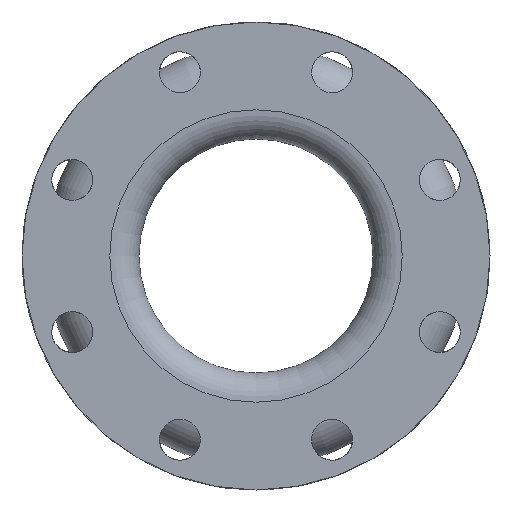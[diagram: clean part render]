
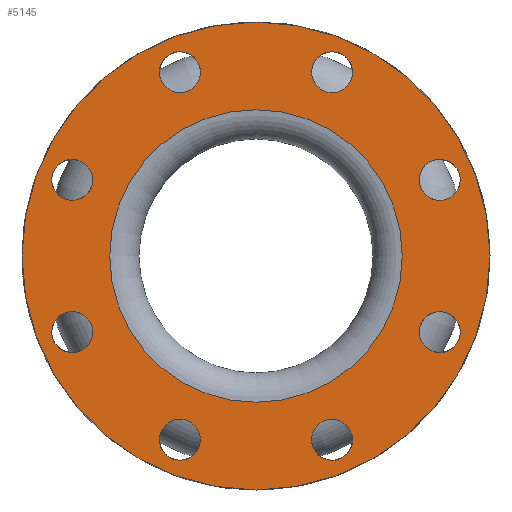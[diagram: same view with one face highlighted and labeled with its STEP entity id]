
A CAD part, left-side view. The second image highlights one B-rep face of the part: STEP entity #5145.
In plain terms, the highlighted planar face has unit normal (-1, 0, 0).
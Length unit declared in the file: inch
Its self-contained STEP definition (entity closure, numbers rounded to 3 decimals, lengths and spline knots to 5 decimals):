
#95=FACE_BOUND('',#1450,.T.);
#96=FACE_BOUND('',#1451,.T.);
#97=FACE_BOUND('',#1452,.T.);
#98=FACE_BOUND('',#1453,.T.);
#99=FACE_BOUND('',#1454,.T.);
#100=FACE_BOUND('',#1455,.T.);
#101=FACE_BOUND('',#1456,.T.);
#102=FACE_BOUND('',#1457,.T.);
#103=FACE_BOUND('',#1458,.T.);
#1074=FACE_OUTER_BOUND('',#1449,.T.);
#1449=EDGE_LOOP('',(#4420));
#1450=EDGE_LOOP('',(#4421));
#1451=EDGE_LOOP('',(#4422));
#1452=EDGE_LOOP('',(#4423));
#1453=EDGE_LOOP('',(#4424));
#1454=EDGE_LOOP('',(#4425));
#1455=EDGE_LOOP('',(#4426));
#1456=EDGE_LOOP('',(#4427));
#1457=EDGE_LOOP('',(#4428));
#1458=EDGE_LOOP('',(#4429));
#1915=CIRCLE('',#5854,0.4375);
#1917=CIRCLE('',#5857,0.4375);
#1918=CIRCLE('',#5859,0.4375);
#1919=CIRCLE('',#5861,0.4375);
#1920=CIRCLE('',#5863,0.4375);
#1921=CIRCLE('',#5865,0.4375);
#1922=CIRCLE('',#5867,0.4375);
#1923=CIRCLE('',#5869,0.4375);
#1931=CIRCLE('',#5884,3.125);
#1932=CIRCLE('',#5886,5.);
#2374=VERTEX_POINT('',#9213);
#2375=VERTEX_POINT('',#9217);
#2376=VERTEX_POINT('',#9220);
#2377=VERTEX_POINT('',#9223);
#2378=VERTEX_POINT('',#9226);
#2379=VERTEX_POINT('',#9229);
#2380=VERTEX_POINT('',#9232);
#2381=VERTEX_POINT('',#9235);
#2389=VERTEX_POINT('',#9258);
#2390=VERTEX_POINT('',#9261);
#3063=EDGE_CURVE('',#2374,#2374,#1915,.T.);
#3065=EDGE_CURVE('',#2375,#2375,#1917,.T.);
#3066=EDGE_CURVE('',#2376,#2376,#1918,.T.);
#3067=EDGE_CURVE('',#2377,#2377,#1919,.T.);
#3068=EDGE_CURVE('',#2378,#2378,#1920,.T.);
#3069=EDGE_CURVE('',#2379,#2379,#1921,.T.);
#3070=EDGE_CURVE('',#2380,#2380,#1922,.T.);
#3071=EDGE_CURVE('',#2381,#2381,#1923,.T.);
#3079=EDGE_CURVE('',#2389,#2389,#1931,.T.);
#3080=EDGE_CURVE('',#2390,#2390,#1932,.T.);
#4420=ORIENTED_EDGE('',*,*,#3080,.F.);
#4421=ORIENTED_EDGE('',*,*,#3079,.T.);
#4422=ORIENTED_EDGE('',*,*,#3063,.T.);
#4423=ORIENTED_EDGE('',*,*,#3065,.T.);
#4424=ORIENTED_EDGE('',*,*,#3066,.T.);
#4425=ORIENTED_EDGE('',*,*,#3067,.T.);
#4426=ORIENTED_EDGE('',*,*,#3068,.T.);
#4427=ORIENTED_EDGE('',*,*,#3069,.T.);
#4428=ORIENTED_EDGE('',*,*,#3070,.T.);
#4429=ORIENTED_EDGE('',*,*,#3071,.T.);
#4559=PLANE('',#5885);
#5145=ADVANCED_FACE('',(#1074,#95,#96,#97,#98,#99,#100,#101,#102,#103),
#4559,.T.);
#5854=AXIS2_PLACEMENT_3D('',#9214,#7521,#7522);
#5857=AXIS2_PLACEMENT_3D('',#9218,#7527,#7528);
#5859=AXIS2_PLACEMENT_3D('',#9221,#7531,#7532);
#5861=AXIS2_PLACEMENT_3D('',#9224,#7535,#7536);
#5863=AXIS2_PLACEMENT_3D('',#9227,#7539,#7540);
#5865=AXIS2_PLACEMENT_3D('',#9230,#7543,#7544);
#5867=AXIS2_PLACEMENT_3D('',#9233,#7547,#7548);
#5869=AXIS2_PLACEMENT_3D('',#9236,#7551,#7552);
#5884=AXIS2_PLACEMENT_3D('',#9259,#7581,#7582);
#5885=AXIS2_PLACEMENT_3D('',#9260,#7583,#7584);
#5886=AXIS2_PLACEMENT_3D('',#9262,#7585,#7586);
#7521=DIRECTION('center_axis',(1.,0.,0.));
#7522=DIRECTION('ref_axis',(0.,-0.707,-0.707));
#7527=DIRECTION('center_axis',(1.,0.,0.));
#7528=DIRECTION('ref_axis',(0.,-1.,0.));
#7531=DIRECTION('center_axis',(1.,0.,0.));
#7532=DIRECTION('ref_axis',(0.,-0.707,0.707));
#7535=DIRECTION('center_axis',(1.,0.,0.));
#7536=DIRECTION('ref_axis',(0.,0.,1.));
#7539=DIRECTION('center_axis',(1.,0.,0.));
#7540=DIRECTION('ref_axis',(0.,0.707,0.707));
#7543=DIRECTION('center_axis',(1.,0.,0.));
#7544=DIRECTION('ref_axis',(0.,1.,0.));
#7547=DIRECTION('center_axis',(1.,0.,0.));
#7548=DIRECTION('ref_axis',(0.,0.707,-0.707));
#7551=DIRECTION('center_axis',(1.,0.,0.));
#7552=DIRECTION('ref_axis',(0.,0.,
-1.));
#7581=DIRECTION('center_axis',(1.,0.,0.));
#7582=DIRECTION('ref_axis',(0.,0.,
-1.));
#7583=DIRECTION('center_axis',(-1.,0.,0.));
#7584=DIRECTION('ref_axis',(0.,0.,1.));
#7585=DIRECTION('center_axis',(1.,0.,0.));
#7586=DIRECTION('ref_axis',(0.,0.,
-1.));
#9213=CARTESIAN_POINT('',(-3.,1.93576,-3.61713));
#9214=CARTESIAN_POINT('Origin',(-3.,1.6264,-3.92649));
#9217=CARTESIAN_POINT('',(-3.,-1.1889,-3.92649));
#9218=CARTESIAN_POINT('Origin',(-3.,-1.6264,-3.92649));
#9220=CARTESIAN_POINT('',(-3.,-3.61713,-1.93576));
#9221=CARTESIAN_POINT('Origin',(-3.,-3.92649,-1.6264));
#9223=CARTESIAN_POINT('',(-3.,-3.92649,1.1889));
#9224=CARTESIAN_POINT('Origin',(-3.,-3.92649,1.6264));
#9226=CARTESIAN_POINT('',(-3.,-1.93576,3.61713));
#9227=CARTESIAN_POINT('Origin',(-3.,-1.6264,3.92649));
#9229=CARTESIAN_POINT('',(-3.,1.1889,3.92649));
#9230=CARTESIAN_POINT('Origin',(-3.,1.6264,3.92649));
#9232=CARTESIAN_POINT('',(-3.,3.61713,1.93576));
#9233=CARTESIAN_POINT('Origin',(-3.,3.92649,1.6264));
#9235=CARTESIAN_POINT('',(-3.,3.92649,-1.1889));
#9236=CARTESIAN_POINT('Origin',(-3.,3.92649,-1.6264));
#9258=CARTESIAN_POINT('',(-3.,3.125,0.));
#9259=CARTESIAN_POINT('Origin',(-3.,0.,0.));
#9260=CARTESIAN_POINT('Origin',(-3.,5.,0.));
#9261=CARTESIAN_POINT('',(-3.,5.,0.));
#9262=CARTESIAN_POINT('Origin',(-3.,0.,0.));
